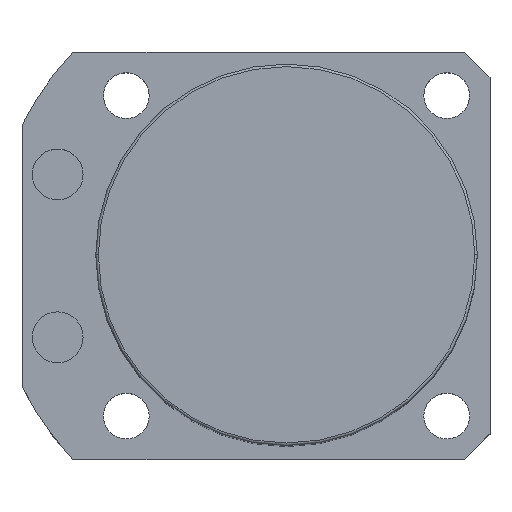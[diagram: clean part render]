
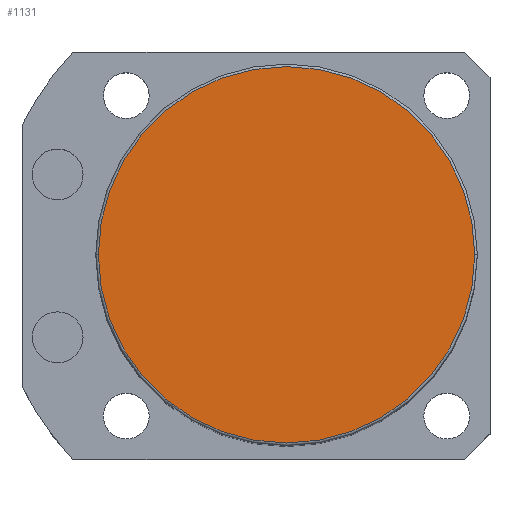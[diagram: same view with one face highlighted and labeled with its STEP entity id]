
A CAD part, top view. The second image highlights one B-rep face of the part: STEP entity #1131.
In plain terms, the highlighted planar face has unit normal (0, 0, 1).
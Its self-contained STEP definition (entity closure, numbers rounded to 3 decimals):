
#49 = CIRCLE ( 'NONE', #72, 37. ) ;
#72 = AXIS2_PLACEMENT_3D ( 'NONE', #2120, #2329, #1261 ) ;
#103 = VERTEX_POINT ( 'NONE', #1279 ) ;
#179 = AXIS2_PLACEMENT_3D ( 'NONE', #2608, #2662, #1349 ) ;
#301 = CARTESIAN_POINT ( 'NONE',  ( -37., 0., 135.5 ) ) ;
#313 = EDGE_LOOP ( 'NONE', ( #1704, #1488 ) ) ;
#474 = AXIS2_PLACEMENT_3D ( 'NONE', #1955, #607, #2612 ) ;
#607 = DIRECTION ( 'NONE',  ( 0., 0., 1. ) ) ;
#902 = VERTEX_POINT ( 'NONE', #301 ) ;
#1131 = ADVANCED_FACE ( 'NONE', ( #1910 ), #1292, .T. ) ;
#1261 = DIRECTION ( 'NONE',  ( 1., 0., 0. ) ) ;
#1279 = CARTESIAN_POINT ( 'NONE',  ( 37., 0., 135.5 ) ) ;
#1292 = PLANE ( 'NONE',  #179 ) ;
#1349 = DIRECTION ( 'NONE',  ( 1., 0., 0. ) ) ;
#1488 = ORIENTED_EDGE ( 'NONE', *, *, #2540, .T. ) ;
#1704 = ORIENTED_EDGE ( 'NONE', *, *, #1961, .T. ) ;
#1705 = CIRCLE ( 'NONE', #474, 37. ) ;
#1910 = FACE_OUTER_BOUND ( 'NONE', #313, .T. ) ;
#1955 = CARTESIAN_POINT ( 'NONE',  ( 0., 0., 135.5 ) ) ;
#1961 = EDGE_CURVE ( 'NONE', #103, #902, #49, .T. ) ;
#2120 = CARTESIAN_POINT ( 'NONE',  ( 0., 0., 135.5 ) ) ;
#2329 = DIRECTION ( 'NONE',  ( 0., 0., 1. ) ) ;
#2540 = EDGE_CURVE ( 'NONE', #902, #103, #1705, .T. ) ;
#2608 = CARTESIAN_POINT ( 'NONE',  ( 0., 0., 135.5 ) ) ;
#2612 = DIRECTION ( 'NONE',  ( 1., 0., 0. ) ) ;
#2662 = DIRECTION ( 'NONE',  ( 0., 0., 1. ) ) ;
